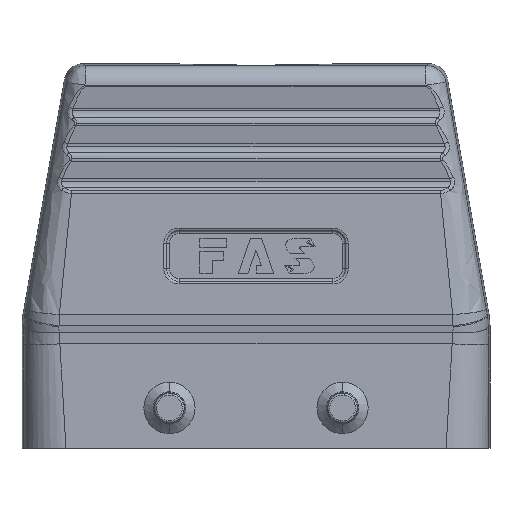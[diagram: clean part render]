
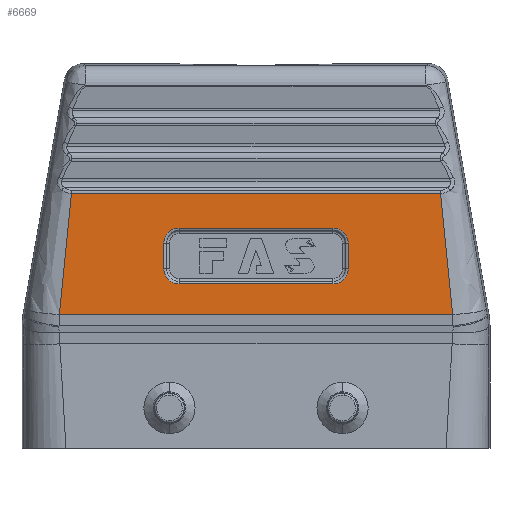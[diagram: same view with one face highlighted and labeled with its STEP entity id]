
A CAD part, front view. The second image highlights one B-rep face of the part: STEP entity #6669.
In plain terms, the highlighted planar face has unit normal (0, -1, 0).
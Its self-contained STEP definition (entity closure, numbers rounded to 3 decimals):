
#48 = VERTEX_POINT ( 'NONE', #12448 ) ;
#86 = EDGE_CURVE ( 'NONE', #9533, #8700, #13800, .T. ) ;
#97 = AXIS2_PLACEMENT_3D ( 'NONE', #19662, #6330, #12045 ) ;
#138 = CARTESIAN_POINT ( 'NONE',  ( 30.672, -22., 20.875 ) ) ;
#535 = EDGE_CURVE ( 'NONE', #13706, #5446, #4159, .T. ) ;
#759 = VERTEX_POINT ( 'NONE', #16259 ) ;
#918 = FACE_OUTER_BOUND ( 'NONE', #1410, .T. ) ;
#1040 =( BOUNDED_CURVE ( )  B_SPLINE_CURVE ( 3, ( #4668, #21500, #19884, #23180 ),
 .UNSPECIFIED., .F., .F. ) 
 B_SPLINE_CURVE_WITH_KNOTS ( ( 4, 4 ),
 ( 0., 1. ),
 .UNSPECIFIED. ) 
 CURVE ( )  GEOMETRIC_REPRESENTATION_ITEM ( )  RATIONAL_B_SPLINE_CURVE ( ( 1., 0.805, 0.805, 1. ) ) 
 REPRESENTATION_ITEM ( '' )  );
#1410 = EDGE_LOOP ( 'NONE', ( #2064, #18891, #5788, #14347 ) ) ;
#1454 = ORIENTED_EDGE ( 'NONE', *, *, #6988, .F. ) ;
#1572 = DIRECTION ( 'NONE',  ( 0., 0., 1. ) ) ;
#1689 = ORIENTED_EDGE ( 'NONE', *, *, #1790, .F. ) ;
#1790 = EDGE_CURVE ( 'NONE', #5204, #6833, #20211, .T. ) ;
#1812 = CARTESIAN_POINT ( 'NONE',  ( -14.366, -22., 0. ) ) ;
#1897 = VECTOR ( 'NONE', #17707, 1000. ) ;
#2064 = ORIENTED_EDGE ( 'NONE', *, *, #11875, .F. ) ;
#2130 = CARTESIAN_POINT ( 'NONE',  ( -23.5, -22., 34.366 ) ) ;
#2323 = CARTESIAN_POINT ( 'NONE',  ( 30.51, -22., 24.029 ) ) ;
#2749 = ORIENTED_EDGE ( 'NONE', *, *, #19407, .F. ) ;
#3020 = DIRECTION ( 'NONE',  ( 1., 0., 0. ) ) ;
#3149 = CARTESIAN_POINT ( 'NONE',  ( -30.672, -22., 20.875 ) ) ;
#4159 =( BOUNDED_CURVE ( )  B_SPLINE_CURVE ( 3, ( #9838, #22923, #20915, #15344 ),
 .UNSPECIFIED., .F., .F. ) 
 B_SPLINE_CURVE_WITH_KNOTS ( ( 4, 4 ),
 ( 0., 1. ),
 .UNSPECIFIED. ) 
 CURVE ( )  GEOMETRIC_REPRESENTATION_ITEM ( )  RATIONAL_B_SPLINE_CURVE ( ( 1., 0.805, 0.805, 1. ) ) 
 REPRESENTATION_ITEM ( '' )  );
#4274 = ORIENTED_EDGE ( 'NONE', *, *, #535, .F. ) ;
#4324 = EDGE_CURVE ( 'NONE', #14857, #23170, #22015, .T. ) ;
#4379 = VECTOR ( 'NONE', #22149, 1000. ) ;
#4406 = CARTESIAN_POINT ( 'NONE',  ( -12., -22., 34.366 ) ) ;
#4668 = CARTESIAN_POINT ( 'NONE',  ( 14.366, -22., 32. ) ) ;
#4855 = CARTESIAN_POINT ( 'NONE',  ( -14.366, -22., 26.614 ) ) ;
#4963 = VECTOR ( 'NONE', #17088, 1000. ) ;
#5190 = EDGE_LOOP ( 'NONE', ( #17498, #9903, #2749, #1689, #5214, #1454, #7845, #4274 ) ) ;
#5204 = VERTEX_POINT ( 'NONE', #4406 ) ;
#5214 = ORIENTED_EDGE ( 'NONE', *, *, #16630, .F. ) ;
#5446 = VERTEX_POINT ( 'NONE', #13087 ) ;
#5624 = CARTESIAN_POINT ( 'NONE',  ( 28.792, -22., 39.758 ) ) ;
#5788 = ORIENTED_EDGE ( 'NONE', *, *, #86, .F. ) ;
#6022 = CARTESIAN_POINT ( 'NONE',  ( 30.248, -22., 27.182 ) ) ;
#6166 = LINE ( 'NONE', #1812, #4379 ) ;
#6178 = FACE_BOUND ( 'NONE', #5190, .T. ) ;
#6330 = DIRECTION ( 'NONE',  ( 0., 1., 0. ) ) ;
#6498 = PLANE ( 'NONE',  #97 ) ;
#6669 = ADVANCED_FACE ( 'NONE', ( #6178, #918 ), #6498, .F. ) ;
#6833 = VERTEX_POINT ( 'NONE', #18247 ) ;
#6988 = EDGE_CURVE ( 'NONE', #48, #759, #1040, .T. ) ;
#7056 = CARTESIAN_POINT ( 'NONE',  ( -23.5, -22., 25.634 ) ) ;
#7845 = ORIENTED_EDGE ( 'NONE', *, *, #24072, .F. ) ;
#8035 = LINE ( 'NONE', #21289, #1897 ) ;
#8400 = LINE ( 'NONE', #7056, #24122 ) ;
#8623 = B_SPLINE_CURVE_WITH_KNOTS ( 'NONE', 3,
 ( #5624, #16744, #20959, #6022, #2323, #138 ),
 .UNSPECIFIED., .F., .F.,
 ( 4, 2, 4 ),
 ( 0., 0.5, 1. ),
 .UNSPECIFIED. ) ;
#8700 = VERTEX_POINT ( 'NONE', #17002 ) ;
#9061 = EDGE_CURVE ( 'NONE', #23170, #13706, #8400, .T. ) ;
#9236 = CARTESIAN_POINT ( 'NONE',  ( -14.366, -22., 28. ) ) ;
#9533 = VERTEX_POINT ( 'NONE', #20155 ) ;
#9739 = CARTESIAN_POINT ( 'NONE',  ( -14.366, -22., 32. ) ) ;
#9838 = CARTESIAN_POINT ( 'NONE',  ( 12., -22., 25.634 ) ) ;
#9903 = ORIENTED_EDGE ( 'NONE', *, *, #4324, .F. ) ;
#10146 = VECTOR ( 'NONE', #1572, 1000. ) ;
#11261 = CARTESIAN_POINT ( 'NONE',  ( -28.792, -22., 39.758 ) ) ;
#11533 = CARTESIAN_POINT ( 'NONE',  ( -14.366, -22., 28. ) ) ;
#11610 = CARTESIAN_POINT ( 'NONE',  ( 12., -22., 25.634 ) ) ;
#11681 = CARTESIAN_POINT ( 'NONE',  ( -12., -22., 34.366 ) ) ;
#11875 = EDGE_CURVE ( 'NONE', #16843, #12016, #8035, .T. ) ;
#12016 = VERTEX_POINT ( 'NONE', #3149 ) ;
#12045 = DIRECTION ( 'NONE',  ( 0., 0., 1. ) ) ;
#12196 = EDGE_CURVE ( 'NONE', #12016, #9533, #24029, .T. ) ;
#12448 = CARTESIAN_POINT ( 'NONE',  ( 14.366, -22., 32. ) ) ;
#13087 = CARTESIAN_POINT ( 'NONE',  ( 14.366, -22., 28. ) ) ;
#13706 = VERTEX_POINT ( 'NONE', #11610 ) ;
#13714 = CARTESIAN_POINT ( 'NONE',  ( -14.366, -22., 33.386 ) ) ;
#13800 = LINE ( 'NONE', #22215, #23441 ) ;
#14069 = CARTESIAN_POINT ( 'NONE',  ( 30.672, -22., 20.875 ) ) ;
#14347 = ORIENTED_EDGE ( 'NONE', *, *, #12196, .F. ) ;
#14410 = CARTESIAN_POINT ( 'NONE',  ( -12., -22., 25.634 ) ) ;
#14608 = DIRECTION ( 'NONE',  ( 1., 0., 0. ) ) ;
#14813 = CARTESIAN_POINT ( 'NONE',  ( -30.248, -22., 27.183 ) ) ;
#14857 = VERTEX_POINT ( 'NONE', #11533 ) ;
#15185 = LINE ( 'NONE', #2130, #4963 ) ;
#15344 = CARTESIAN_POINT ( 'NONE',  ( 14.366, -22., 28. ) ) ;
#16259 = CARTESIAN_POINT ( 'NONE',  ( 12., -22., 34.366 ) ) ;
#16630 = EDGE_CURVE ( 'NONE', #759, #5204, #15185, .T. ) ;
#16705 = CARTESIAN_POINT ( 'NONE',  ( -29.596, -22., 33.477 ) ) ;
#16744 = CARTESIAN_POINT ( 'NONE',  ( 29.208, -22., 36.619 ) ) ;
#16843 = VERTEX_POINT ( 'NONE', #14069 ) ;
#17002 = CARTESIAN_POINT ( 'NONE',  ( 28.792, -22., 39.758 ) ) ;
#17088 = DIRECTION ( 'NONE',  ( -1., 0., 0. ) ) ;
#17498 = ORIENTED_EDGE ( 'NONE', *, *, #9061, .F. ) ;
#17707 = DIRECTION ( 'NONE',  ( -1., 0., 0. ) ) ;
#18247 = CARTESIAN_POINT ( 'NONE',  ( -14.366, -22., 32. ) ) ;
#18596 = CARTESIAN_POINT ( 'NONE',  ( -29.207, -22., 36.619 ) ) ;
#18757 = CARTESIAN_POINT ( 'NONE',  ( -30.672, -22., 20.875 ) ) ;
#18891 = ORIENTED_EDGE ( 'NONE', *, *, #21861, .F. ) ;
#19407 = EDGE_CURVE ( 'NONE', #6833, #14857, #6166, .T. ) ;
#19662 = CARTESIAN_POINT ( 'NONE',  ( -23.5, -22., 0. ) ) ;
#19884 = CARTESIAN_POINT ( 'NONE',  ( 13.386, -22., 34.366 ) ) ;
#20072 = CARTESIAN_POINT ( 'NONE',  ( -12., -22., 25.634 ) ) ;
#20155 = CARTESIAN_POINT ( 'NONE',  ( -28.792, -22., 39.758 ) ) ;
#20211 =( BOUNDED_CURVE ( )  B_SPLINE_CURVE ( 3, ( #11681, #20890, #13714, #9739 ),
 .UNSPECIFIED., .F., .T. ) 
 B_SPLINE_CURVE_WITH_KNOTS ( ( 4, 4 ),
 ( 0., 1. ),
 .UNSPECIFIED. ) 
 CURVE ( )  GEOMETRIC_REPRESENTATION_ITEM ( )  RATIONAL_B_SPLINE_CURVE ( ( 1., 0.805, 0.805, 1. ) ) 
 REPRESENTATION_ITEM ( '' )  );
#20607 = CARTESIAN_POINT ( 'NONE',  ( -30.509, -22., 24.029 ) ) ;
#20890 = CARTESIAN_POINT ( 'NONE',  ( -13.386, -22., 34.366 ) ) ;
#20915 = CARTESIAN_POINT ( 'NONE',  ( 14.366, -22., 26.614 ) ) ;
#20959 = CARTESIAN_POINT ( 'NONE',  ( 29.597, -22., 33.477 ) ) ;
#21289 = CARTESIAN_POINT ( 'NONE',  ( -264.098, -22., 20.875 ) ) ;
#21500 = CARTESIAN_POINT ( 'NONE',  ( 14.366, -22., 33.386 ) ) ;
#21833 = LINE ( 'NONE', #22078, #10146 ) ;
#21861 = EDGE_CURVE ( 'NONE', #8700, #16843, #8623, .T. ) ;
#22015 =( BOUNDED_CURVE ( )  B_SPLINE_CURVE ( 3, ( #9236, #4855, #23706, #14410 ),
 .UNSPECIFIED., .F., .T. ) 
 B_SPLINE_CURVE_WITH_KNOTS ( ( 4, 4 ),
 ( 0., 1. ),
 .UNSPECIFIED. ) 
 CURVE ( )  GEOMETRIC_REPRESENTATION_ITEM ( )  RATIONAL_B_SPLINE_CURVE ( ( 1., 0.805, 0.805, 1. ) ) 
 REPRESENTATION_ITEM ( '' )  );
#22078 = CARTESIAN_POINT ( 'NONE',  ( 14.366, -22., 0. ) ) ;
#22149 = DIRECTION ( 'NONE',  ( 0., 0., -1. ) ) ;
#22215 = CARTESIAN_POINT ( 'NONE',  ( -23.5, -22., 39.758 ) ) ;
#22923 = CARTESIAN_POINT ( 'NONE',  ( 13.386, -22., 25.634 ) ) ;
#23170 = VERTEX_POINT ( 'NONE', #20072 ) ;
#23180 = CARTESIAN_POINT ( 'NONE',  ( 12., -22., 34.366 ) ) ;
#23441 = VECTOR ( 'NONE', #14608, 1000. ) ;
#23706 = CARTESIAN_POINT ( 'NONE',  ( -13.386, -22., 25.634 ) ) ;
#24029 = B_SPLINE_CURVE_WITH_KNOTS ( 'NONE', 3,
 ( #18757, #20607, #14813, #16705, #18596, #11261 ),
 .UNSPECIFIED., .F., .F.,
 ( 4, 2, 4 ),
 ( 0., 0.5, 1. ),
 .UNSPECIFIED. ) ;
#24072 = EDGE_CURVE ( 'NONE', #5446, #48, #21833, .T. ) ;
#24122 = VECTOR ( 'NONE', #3020, 1000. ) ;
